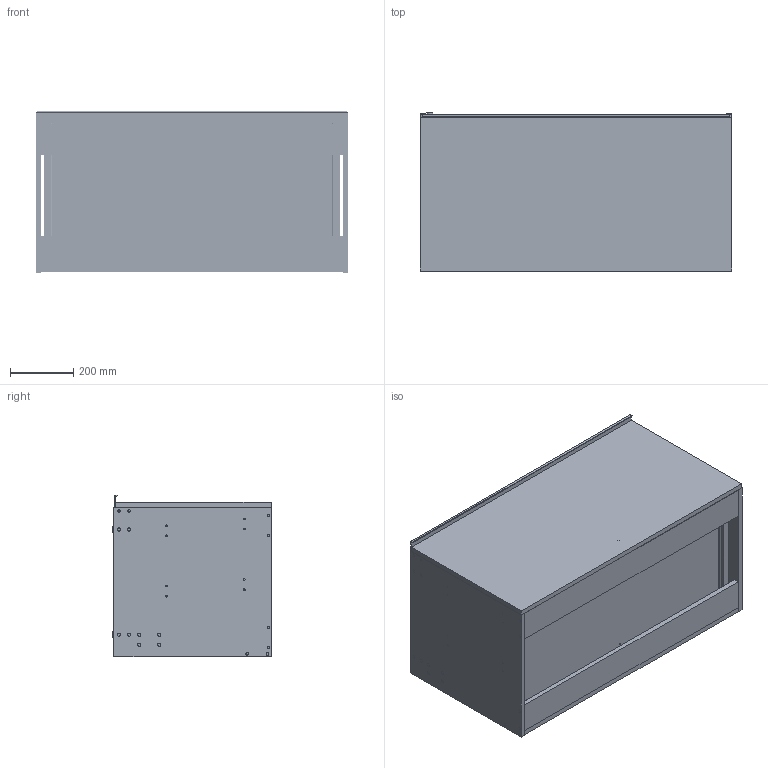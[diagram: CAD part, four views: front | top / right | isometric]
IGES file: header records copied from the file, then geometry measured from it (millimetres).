
Start section: SolidWorks IGES file using analytic representation for surfaces
Global section: file name: \\PDM-SQL\Technolodzy\WYROBY\_Nowa dokumentacja\SZAFKA VIGOUR 100 1S+1S - 167934, 167935, 167936\SZAFKA 100 1S.IGS; native system: SolidWorks 2012; preprocessor: SolidWorks 2012; author: rkopecki; date: 200625.130332; units: millimetre
Bounding box: 990 x 504.5 x 512.55 mm (x, y, z)
Surface area: 5901767.6 mm2 (no closed solid volume)
Topology: 0 solids, 2 shells, 1447 faces, 17623 edges, 17466 vertices
Faces by surface type: bspline 763, revolution 684
